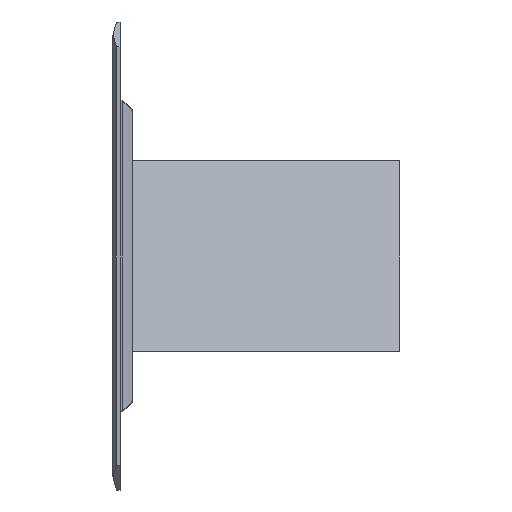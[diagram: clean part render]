
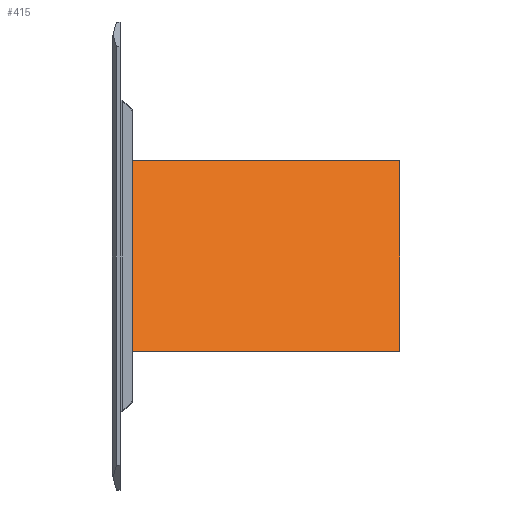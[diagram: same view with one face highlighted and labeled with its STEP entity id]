
A CAD part, left-side view. The second image highlights one B-rep face of the part: STEP entity #415.
In plain terms, the highlighted planar face has unit normal (-0.866, 0, 0.5) as drawn and (1, 0, 0) by its records, which use the part's own axes.
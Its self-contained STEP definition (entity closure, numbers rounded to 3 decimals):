
#63 = ORIENTED_EDGE ( 'NONE', *, *, #3544, .T. ) ;
#415 = ADVANCED_FACE ( 'NONE', ( #5665 ), #9144, .F. ) ;
#857 = EDGE_CURVE ( 'NONE', #2019, #2643, #9262, .T. ) ;
#1309 = ORIENTED_EDGE ( 'NONE', *, *, #857, .T. ) ;
#2019 = VERTEX_POINT ( 'NONE', #3678 ) ;
#2153 = DIRECTION ( 'NONE',  ( 0., -1., 0. ) ) ;
#2643 = VERTEX_POINT ( 'NONE', #8640 ) ;
#2903 = EDGE_CURVE ( 'NONE', #2019, #3588, #9148, .T. ) ;
#2905 = CARTESIAN_POINT ( 'NONE',  ( 52., 342.5, -311.77 ) ) ;
#3544 = EDGE_CURVE ( 'NONE', #2643, #4722, #5081, .T. ) ;
#3588 = VERTEX_POINT ( 'NONE', #2905 ) ;
#3678 = CARTESIAN_POINT ( 'NONE',  ( 52., 342.5, 251.726 ) ) ;
#4032 = VECTOR ( 'NONE', #2153, 1000. ) ;
#4035 = VECTOR ( 'NONE', #6596, 1000. ) ;
#4118 = EDGE_CURVE ( 'NONE', #3588, #4722, #8001, .T. ) ;
#4180 = CARTESIAN_POINT ( 'NONE',  ( 52., -342.5, -311.77 ) ) ;
#4299 = DIRECTION ( 'NONE',  ( -1., 0., 0. ) ) ;
#4383 = CARTESIAN_POINT ( 'NONE',  ( 52., -342.5, -311.77 ) ) ;
#4722 = VERTEX_POINT ( 'NONE', #4180 ) ;
#4785 = DIRECTION ( 'NONE',  ( 0., 0., -1. ) ) ;
#4915 = DIRECTION ( 'NONE',  ( 0., 0., 1. ) ) ;
#5081 = LINE ( 'NONE', #4383, #7484 ) ;
#5231 = AXIS2_PLACEMENT_3D ( 'NONE', #7781, #4299, #4915 ) ;
#5234 = CARTESIAN_POINT ( 'NONE',  ( 52., 342.5, -311.77 ) ) ;
#5665 = FACE_OUTER_BOUND ( 'NONE', #7112, .T. ) ;
#6023 = ORIENTED_EDGE ( 'NONE', *, *, #4118, .F. ) ;
#6154 = VECTOR ( 'NONE', #4785, 1000. ) ;
#6596 = DIRECTION ( 'NONE',  ( 0., -1., 0. ) ) ;
#7112 = EDGE_LOOP ( 'NONE', ( #63, #6023, #7891, #1309 ) ) ;
#7376 = DIRECTION ( 'NONE',  ( 0., 0., -1. ) ) ;
#7484 = VECTOR ( 'NONE', #7376, 1000. ) ;
#7627 = CARTESIAN_POINT ( 'NONE',  ( 52., 342.5, 251.726 ) ) ;
#7781 = CARTESIAN_POINT ( 'NONE',  ( 52., 342.5, -311.77 ) ) ;
#7891 = ORIENTED_EDGE ( 'NONE', *, *, #2903, .F. ) ;
#8001 = LINE ( 'NONE', #5234, #4035 ) ;
#8640 = CARTESIAN_POINT ( 'NONE',  ( 52., -342.5, 251.726 ) ) ;
#9052 = CARTESIAN_POINT ( 'NONE',  ( 52., 342.5, -311.77 ) ) ;
#9144 = PLANE ( 'NONE',  #5231 ) ;
#9148 = LINE ( 'NONE', #9052, #6154 ) ;
#9262 = LINE ( 'NONE', #7627, #4032 ) ;
